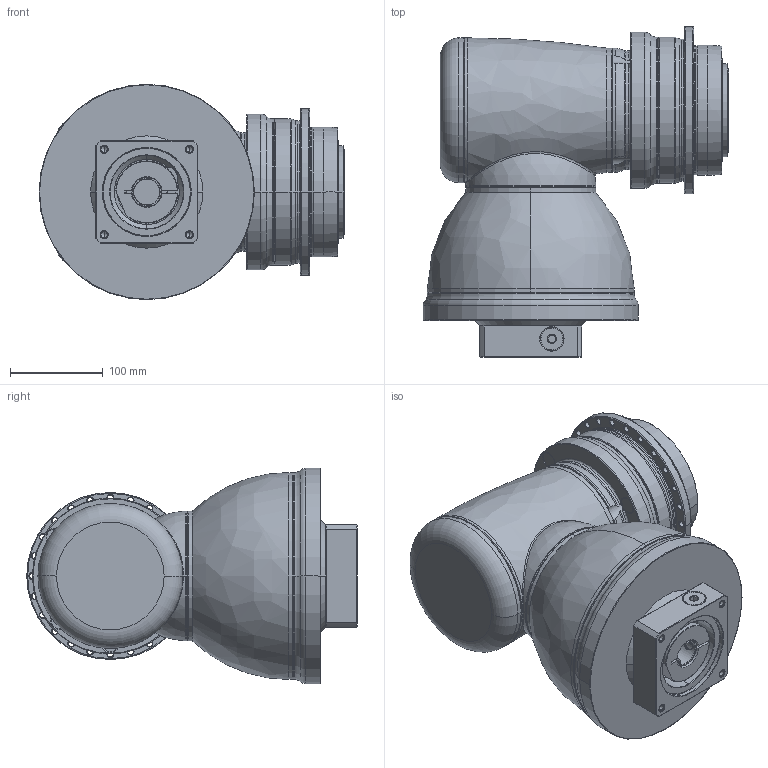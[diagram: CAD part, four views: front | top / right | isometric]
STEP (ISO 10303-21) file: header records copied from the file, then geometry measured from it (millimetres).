
FILE_DESCRIPTION((''),'2;1');
FILE_NAME('APK140_2ST_SBG_28-P0409610201_ASM','2018-10-30T',('d01226'),(''),'PRO/ENGINEER BY PARAMETRIC TECHNOLOGY CORPORATION, 2015240','PRO/ENGINEER BY PARAMETRIC TECHNOLOGY CORPORATION, 2015240','');
FILE_SCHEMA(('CONFIG_CONTROL_DESIGN'));
Length unit declared in the file: millimetre
Products named in the file (13): P0278501003; P0359501103; P1211500001; P1802510011; P1018600002; P1365600001; P1007601001; P1318610501; P0503600010; P0129655001; P0409610201; 21711418017; APK140_2ST_SBG_28-P0409610201_ASM
Assembly tree (12 placements, depth 2):
  APK140_2ST_SBG_28-P0409610201_ASM
    P0278501003
    P0359501103
    P1211500001
    P1802510011
    P1018600002
    P1365600001
    P1007601001
    P1318610501
    P0503600010
    P0129655001
    P0409610201
    21711418017
Bounding box: 329.5 x 356 x 232 mm (x, y, z)
Volume: 10661848 mm3; surface area: 777894.5 mm2
Topology: 13 solids, 38 shells, 850 faces, 1949 edges, 1186 vertices
Faces by surface type: cylinder 356, cone 231, plane 146, torus 97, bspline 18, sphere 2
Entity records: 27243 total; most frequent: CARTESIAN_POINT 7313, DIRECTION 4586, ORIENTED_EDGE 3708, AXIS2_PLACEMENT_3D 1965, EDGE_CURVE 1905, VERTEX_POINT 1186, CIRCLE 1098, EDGE_LOOP 1017
